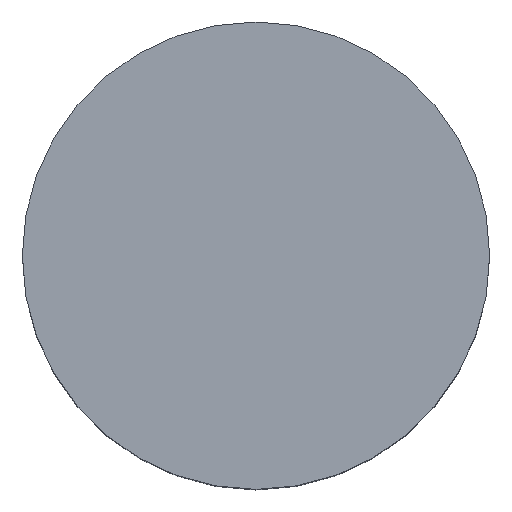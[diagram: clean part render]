
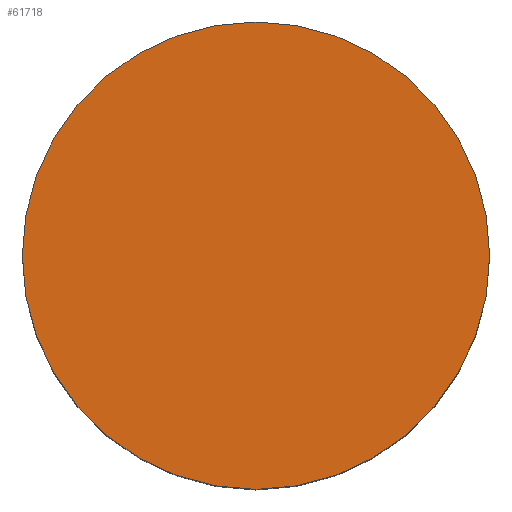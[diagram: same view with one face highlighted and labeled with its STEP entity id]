
A CAD part, top view. The second image highlights one B-rep face of the part: STEP entity #61718.
In plain terms, the highlighted planar face has unit normal (0, 0, 1).
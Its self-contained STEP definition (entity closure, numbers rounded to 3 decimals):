
#450 = DIRECTION ( 'NONE',  ( 0., 0., 1. ) ) ;
#1833 = AXIS2_PLACEMENT_3D ( 'NONE', #45059, #450, #40168 ) ;
#2090 = AXIS2_PLACEMENT_3D ( 'NONE', #23560, #28416, #47352 ) ;
#2173 = EDGE_CURVE ( 'NONE', #7794, #53813, #32266, .T. ) ;
#4263 = EDGE_LOOP ( 'NONE', ( #50589, #4434 ) ) ;
#4434 = ORIENTED_EDGE ( 'NONE', *, *, #2173, .T. ) ;
#7794 = VERTEX_POINT ( 'NONE', #36264 ) ;
#19806 = CIRCLE ( 'NONE', #2090, 29.3 ) ;
#20370 = CARTESIAN_POINT ( 'NONE',  ( 0., 0., 43.2 ) ) ;
#23560 = CARTESIAN_POINT ( 'NONE',  ( 0., 0., 43.2 ) ) ;
#28416 = DIRECTION ( 'NONE',  ( 0., 0., 1. ) ) ;
#32266 = CIRCLE ( 'NONE', #59300, 29.3 ) ;
#35318 = EDGE_CURVE ( 'NONE', #53813, #7794, #19806, .T. ) ;
#36264 = CARTESIAN_POINT ( 'NONE',  ( 29.3, 0., 43.2 ) ) ;
#40168 = DIRECTION ( 'NONE',  ( 1., 0., 0. ) ) ;
#42319 = PLANE ( 'NONE',  #1833 ) ;
#45059 = CARTESIAN_POINT ( 'NONE',  ( 0., 0., 43.2 ) ) ;
#47352 = DIRECTION ( 'NONE',  ( 1., 0., 0. ) ) ;
#49691 = DIRECTION ( 'NONE',  ( 1., 0., 0. ) ) ;
#50322 = DIRECTION ( 'NONE',  ( 0., 0., 1. ) ) ;
#50589 = ORIENTED_EDGE ( 'NONE', *, *, #35318, .T. ) ;
#51797 = CARTESIAN_POINT ( 'NONE',  ( -29.3, 0., 43.2 ) ) ;
#53813 = VERTEX_POINT ( 'NONE', #51797 ) ;
#55135 = FACE_OUTER_BOUND ( 'NONE', #4263, .T. ) ;
#59300 = AXIS2_PLACEMENT_3D ( 'NONE', #20370, #50322, #49691 ) ;
#61718 = ADVANCED_FACE ( 'NONE', ( #55135 ), #42319, .T. ) ;
